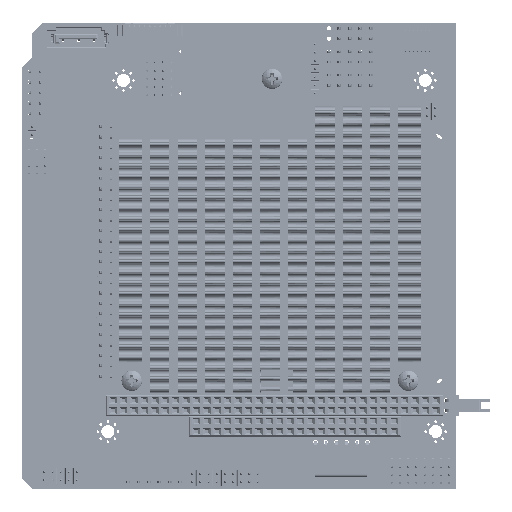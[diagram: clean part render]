
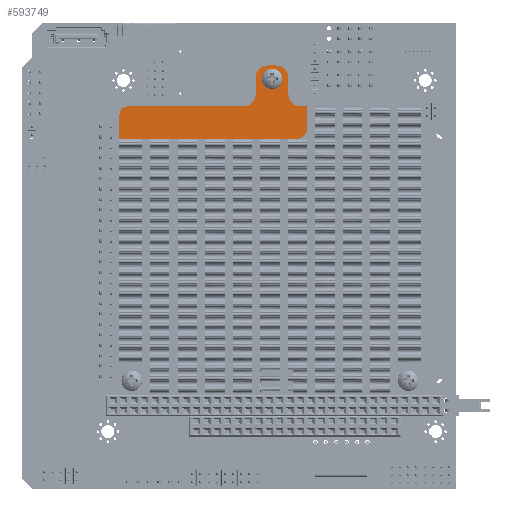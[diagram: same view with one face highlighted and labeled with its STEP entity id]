
A CAD part, top view. The second image highlights one B-rep face of the part: STEP entity #593749.
In plain terms, the highlighted planar face has unit normal (0, 0, 1) as drawn and (0, 1, 0) by its records, which use the part's own axes.
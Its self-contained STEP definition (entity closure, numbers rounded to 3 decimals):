
#31800 = LINE ( 'NONE', #545942, #566418 ) ;
#39559 = DIRECTION ( 'NONE',  ( 0., 0., -1. ) ) ;
#55644 = CARTESIAN_POINT ( 'NONE',  ( 33., 2.5, -6.49 ) ) ;
#61084 = VERTEX_POINT ( 'NONE', #307590 ) ;
#65614 = CARTESIAN_POINT ( 'NONE',  ( 28., 2.5, -34.75 ) ) ;
#72198 = ORIENTED_EDGE ( 'NONE', *, *, #541600, .F. ) ;
#94717 = DIRECTION ( 'NONE',  ( 0., 0., -1. ) ) ;
#95156 = VECTOR ( 'NONE', #869206, 1000. ) ;
#103374 = ORIENTED_EDGE ( 'NONE', *, *, #330174, .T. ) ;
#104096 = CARTESIAN_POINT ( 'NONE',  ( 30., 2.5, 36.75 ) ) ;
#106927 = CARTESIAN_POINT ( 'NONE',  ( 36.75, 2.5, 0.5 ) ) ;
#107912 = CARTESIAN_POINT ( 'NONE',  ( 40., 2.5, 1.51 ) ) ;
#109261 = CARTESIAN_POINT ( 'NONE',  ( 33., 2.5, 7.51 ) ) ;
#116356 = EDGE_CURVE ( 'NONE', #864812, #362026, #248029, .T. ) ;
#122324 = CARTESIAN_POINT ( 'NONE',  ( 40., 2.5, -3.49 ) ) ;
#123131 = DIRECTION ( 'NONE',  ( -1., 0., 0. ) ) ;
#125592 = VERTEX_POINT ( 'NONE', #511986 ) ;
#127802 = VERTEX_POINT ( 'NONE', #741748 ) ;
#132975 = DIRECTION ( 'NONE',  ( 1., 0., 0. ) ) ;
#135176 = CARTESIAN_POINT ( 'NONE',  ( 37., 2.5, 1.51 ) ) ;
#137323 = ORIENTED_EDGE ( 'NONE', *, *, #544910, .T. ) ;
#140458 = VERTEX_POINT ( 'NONE', #854588 ) ;
#144679 = DIRECTION ( 'NONE',  ( -1., 0., 0. ) ) ;
#147155 = VERTEX_POINT ( 'NONE', #107912 ) ;
#147261 = DIRECTION ( 'NONE',  ( -1., 0., 0. ) ) ;
#148804 = FACE_OUTER_BOUND ( 'NONE', #791702, .T. ) ;
#152073 = CIRCLE ( 'NONE', #164888, 3. ) ;
#153503 = CARTESIAN_POINT ( 'NONE',  ( 40., 2.5, -0.49 ) ) ;
#153754 = CIRCLE ( 'NONE', #773595, 2. ) ;
#164888 = AXIS2_PLACEMENT_3D ( 'NONE', #715066, #313787, #782559 ) ;
#174283 = DIRECTION ( 'NONE',  ( 0., 0., 1. ) ) ;
#176581 = DIRECTION ( 'NONE',  ( -1., 0., 0. ) ) ;
#186771 = CARTESIAN_POINT ( 'NONE',  ( 40., 2.5, 36.75 ) ) ;
#191669 = CARTESIAN_POINT ( 'NONE',  ( 37., 2.5, 4.51 ) ) ;
#199107 = ORIENTED_EDGE ( 'NONE', *, *, #567226, .F. ) ;
#202427 = DIRECTION ( 'NONE',  ( 0., 0., -1. ) ) ;
#204393 = ORIENTED_EDGE ( 'NONE', *, *, #389241, .F. ) ;
#208779 = VECTOR ( 'NONE', #725633, 1000. ) ;
#214408 = LINE ( 'NONE', #349467, #864329 ) ;
#217474 = DIRECTION ( 'NONE',  ( 0., 0., -1. ) ) ;
#242363 = AXIS2_PLACEMENT_3D ( 'NONE', #661739, #260263, #729070 ) ;
#245875 = EDGE_LOOP ( 'NONE', ( #465637, #679123 ) ) ;
#248029 = CIRCLE ( 'NONE', #721672, 3. ) ;
#254051 = DIRECTION ( 'NONE',  ( 0., 0., -1. ) ) ;
#260263 = DIRECTION ( 'NONE',  ( 0., -1., 0. ) ) ;
#274070 = EDGE_CURVE ( 'NONE', #829070, #125592, #713090, .T. ) ;
#274328 = ORIENTED_EDGE ( 'NONE', *, *, #406149, .F. ) ;
#288490 = ORIENTED_EDGE ( 'NONE', *, *, #671208, .F. ) ;
#291892 = CARTESIAN_POINT ( 'NONE',  ( 36.75, 2.5, -0.8 ) ) ;
#304839 = CARTESIAN_POINT ( 'NONE',  ( 36.75, 2.5, 0.5 ) ) ;
#305869 = FACE_BOUND ( 'NONE', #245875, .T. ) ;
#306354 = ORIENTED_EDGE ( 'NONE', *, *, #354952, .T. ) ;
#307590 = CARTESIAN_POINT ( 'NONE',  ( 28., 2.5, -36.75 ) ) ;
#313787 = DIRECTION ( 'NONE',  ( 0., -1., 0. ) ) ;
#330174 = EDGE_CURVE ( 'NONE', #140458, #864812, #387090, .T. ) ;
#335460 = DIRECTION ( 'NONE',  ( 0., 0., -1. ) ) ;
#349467 = CARTESIAN_POINT ( 'NONE',  ( 30., 2.5, 36.75 ) ) ;
#354952 = EDGE_CURVE ( 'NONE', #147155, #466129, #777756, .T. ) ;
#359145 = CARTESIAN_POINT ( 'NONE',  ( 36.75, 2.5, 1.8 ) ) ;
#361281 = PLANE ( 'NONE',  #715392 ) ;
#362026 = VERTEX_POINT ( 'NONE', #834484 ) ;
#372297 = DIRECTION ( 'NONE',  ( 0., 0., 1. ) ) ;
#383822 = VERTEX_POINT ( 'NONE', #605322 ) ;
#387090 = LINE ( 'NONE', #122324, #208779 ) ;
#389241 = EDGE_CURVE ( 'NONE', #147155, #579806, #649732, .T. ) ;
#406149 = EDGE_CURVE ( 'NONE', #678816, #755983, #591389, .T. ) ;
#413173 = VECTOR ( 'NONE', #335460, 1000. ) ;
#421383 = VECTOR ( 'NONE', #254051, 1000. ) ;
#423934 = CIRCLE ( 'NONE', #805300, 1.3 ) ;
#434628 = ORIENTED_EDGE ( 'NONE', *, *, #572978, .F. ) ;
#457707 = VECTOR ( 'NONE', #39559, 1000. ) ;
#463340 = EDGE_CURVE ( 'NONE', #362026, #383822, #214408, .T. ) ;
#465637 = ORIENTED_EDGE ( 'NONE', *, *, #607545, .T. ) ;
#466129 = VERTEX_POINT ( 'NONE', #153503 ) ;
#466480 = CARTESIAN_POINT ( 'NONE',  ( 22., 2.5, 6.15 ) ) ;
#470077 = CARTESIAN_POINT ( 'NONE',  ( 22., 2.5, 36.75 ) ) ;
#474126 = AXIS2_PLACEMENT_3D ( 'NONE', #109261, #577905, #176581 ) ;
#480247 = VERTEX_POINT ( 'NONE', #291892 ) ;
#495959 = DIRECTION ( 'NONE',  ( 0., -1., 0. ) ) ;
#498362 = LINE ( 'NONE', #548521, #854834 ) ;
#511986 = CARTESIAN_POINT ( 'NONE',  ( 33., 2.5, 4.51 ) ) ;
#524336 = DIRECTION ( 'NONE',  ( 0., -1., 0. ) ) ;
#534191 = DIRECTION ( 'NONE',  ( 0., -1., 0. ) ) ;
#535775 = ORIENTED_EDGE ( 'NONE', *, *, #591466, .T. ) ;
#541600 = EDGE_CURVE ( 'NONE', #755842, #678816, #152073, .T. ) ;
#544910 = EDGE_CURVE ( 'NONE', #125592, #579806, #629733, .T. ) ;
#545942 = CARTESIAN_POINT ( 'NONE',  ( 40.221, 2.5, -36.75 ) ) ;
#548521 = CARTESIAN_POINT ( 'NONE',  ( 40., 2.5, 9.15 ) ) ;
#566418 = VECTOR ( 'NONE', #144679, 1000. ) ;
#567226 = EDGE_CURVE ( 'NONE', #140458, #466129, #616972, .T. ) ;
#572978 = EDGE_CURVE ( 'NONE', #61084, #383822, #153754, .T. ) ;
#575633 = DIRECTION ( 'NONE',  ( 0., -1., 0. ) ) ;
#577905 = DIRECTION ( 'NONE',  ( 0., -1., 0. ) ) ;
#579806 = VERTEX_POINT ( 'NONE', #191669 ) ;
#591389 = LINE ( 'NONE', #470077, #413173 ) ;
#591466 = EDGE_CURVE ( 'NONE', #61084, #755983, #31800, .T. ) ;
#593749 = ADVANCED_FACE ( 'NONE', ( #148804, #305869 ), #361281, .F. ) ;
#603884 = DIRECTION ( 'NONE',  ( 0., -1., 0. ) ) ;
#605322 = CARTESIAN_POINT ( 'NONE',  ( 30., 2.5, -34.75 ) ) ;
#607545 = EDGE_CURVE ( 'NONE', #843958, #480247, #683874, .T. ) ;
#616916 = AXIS2_PLACEMENT_3D ( 'NONE', #135176, #603884, #202427 ) ;
#616972 = CIRCLE ( 'NONE', #242363, 3. ) ;
#628058 = CARTESIAN_POINT ( 'NONE',  ( 30., 2.5, 7.51 ) ) ;
#629733 = LINE ( 'NONE', #801783, #95156 ) ;
#649732 = CIRCLE ( 'NONE', #616916, 3. ) ;
#656906 = LINE ( 'NONE', #104096, #457707 ) ;
#661739 = CARTESIAN_POINT ( 'NONE',  ( 37., 2.5, -0.49 ) ) ;
#671208 = EDGE_CURVE ( 'NONE', #127802, #755842, #498362, .T. ) ;
#677082 = CARTESIAN_POINT ( 'NONE',  ( 25., 2.5, 9.15 ) ) ;
#678816 = VERTEX_POINT ( 'NONE', #466480 ) ;
#679123 = ORIENTED_EDGE ( 'NONE', *, *, #712865, .T. ) ;
#683874 = CIRCLE ( 'NONE', #822629, 1.3 ) ;
#691413 = CARTESIAN_POINT ( 'NONE',  ( 22., 2.5, -36.75 ) ) ;
#712865 = EDGE_CURVE ( 'NONE', #480247, #843958, #423934, .T. ) ;
#713090 = CIRCLE ( 'NONE', #474126, 3. ) ;
#715066 = CARTESIAN_POINT ( 'NONE',  ( 25., 2.5, 6.15 ) ) ;
#715392 = AXIS2_PLACEMENT_3D ( 'NONE', #829941, #495959, #94717 ) ;
#720405 = ORIENTED_EDGE ( 'NONE', *, *, #745863, .T. ) ;
#721672 = AXIS2_PLACEMENT_3D ( 'NONE', #55644, #524336, #123131 ) ;
#725633 = DIRECTION ( 'NONE',  ( -1., 0., 0. ) ) ;
#729070 = DIRECTION ( 'NONE',  ( 0., 0., -1. ) ) ;
#738025 = ORIENTED_EDGE ( 'NONE', *, *, #463340, .T. ) ;
#741748 = CARTESIAN_POINT ( 'NONE',  ( 30., 2.5, 9.15 ) ) ;
#745863 = EDGE_CURVE ( 'NONE', #127802, #829070, #656906, .T. ) ;
#755842 = VERTEX_POINT ( 'NONE', #677082 ) ;
#755983 = VERTEX_POINT ( 'NONE', #691413 ) ;
#772447 = CARTESIAN_POINT ( 'NONE',  ( 33., 2.5, -3.49 ) ) ;
#773595 = AXIS2_PLACEMENT_3D ( 'NONE', #65614, #534191, #132975 ) ;
#773645 = DIRECTION ( 'NONE',  ( 0., -1., 0. ) ) ;
#777756 = LINE ( 'NONE', #186771, #421383 ) ;
#782559 = DIRECTION ( 'NONE',  ( 0., 0., -1. ) ) ;
#785903 = ORIENTED_EDGE ( 'NONE', *, *, #274070, .T. ) ;
#791702 = EDGE_LOOP ( 'NONE', ( #434628, #535775, #274328, #72198, #288490, #720405, #785903, #137323, #204393, #306354, #199107, #103374, #802025, #738025 ) ) ;
#801783 = CARTESIAN_POINT ( 'NONE',  ( 40., 2.5, 4.51 ) ) ;
#802025 = ORIENTED_EDGE ( 'NONE', *, *, #116356, .T. ) ;
#805300 = AXIS2_PLACEMENT_3D ( 'NONE', #304839, #773645, #372297 ) ;
#822629 = AXIS2_PLACEMENT_3D ( 'NONE', #106927, #575633, #174283 ) ;
#829070 = VERTEX_POINT ( 'NONE', #628058 ) ;
#829941 = CARTESIAN_POINT ( 'NONE',  ( 40., 2.5, 36.75 ) ) ;
#834484 = CARTESIAN_POINT ( 'NONE',  ( 30., 2.5, -6.49 ) ) ;
#843958 = VERTEX_POINT ( 'NONE', #359145 ) ;
#854588 = CARTESIAN_POINT ( 'NONE',  ( 37., 2.5, -3.49 ) ) ;
#854834 = VECTOR ( 'NONE', #147261, 1000. ) ;
#864329 = VECTOR ( 'NONE', #217474, 1000. ) ;
#864812 = VERTEX_POINT ( 'NONE', #772447 ) ;
#869206 = DIRECTION ( 'NONE',  ( 1., 0., 0. ) ) ;
